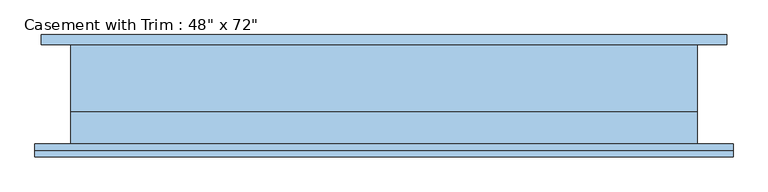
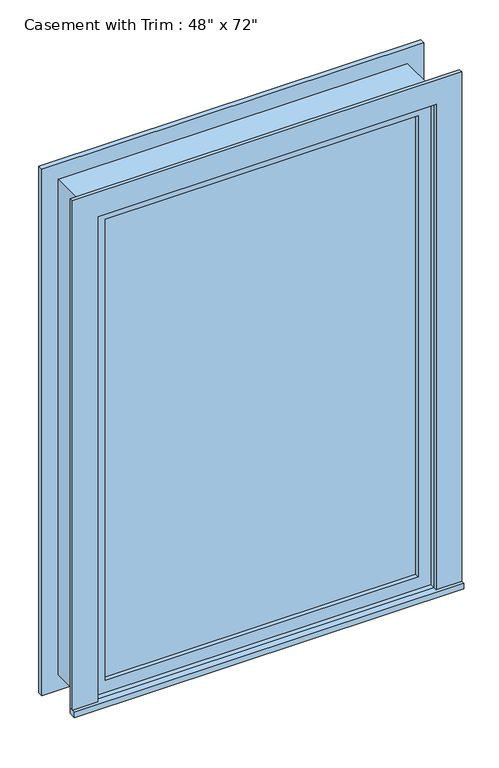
"""IFC4 building model written with IfcOpenShell, lengths in millimetres: window geometry."""

from ifc_helpers import new_model, si_unit, frame, origin, place, context, project, spatial, polyline, outline, extrude, source, transform, mapped, element, save


def window_97fb18ba(model_context):
    return source(origin(), model_context, "Body", "SweptSolid", [
        extrude(outline(polyline([(-679.45, -122.2375), (-679.45, -96.8375), (679.45, -96.8375), (679.45, -122.2375), (-679.45, -122.2375)])), frame((0.0, 0.0, 304.8), z_axis=(0.0, 0.0, 1.0), x_axis=(1.0, 0.0, 0.0)), (0.0, 0.0, 1.0), 19.05),
        extrude(outline(polyline([(2114.55, -590.55), (2114.55, 590.55), (323.85, 590.55), (323.85, 679.45), (2203.45, 679.45), (2203.45, -679.45), (323.85, -679.45), (323.85, -590.55), (2114.55, -590.55)])), frame((0.0, -109.5375, 0.0), z_axis=(0.0, 1.0, 0.0), x_axis=(0.0, 0.0, 1.0)), (0.0, 0.0, 1.0), 12.7),
        extrude(outline(polyline([(2190.75, 666.75), (2190.75, -666.75), (247.65, -666.75), (247.65, 666.75), (2190.75, 666.75)]), holes=[polyline([(2101.85, 577.85), (336.55, 577.85), (336.55, -577.85), (2101.85, -577.85), (2101.85, 577.85)])]), frame((0.0, 96.8375, 0.0), z_axis=(0.0, 1.0, 0.0), x_axis=(0.0, 0.0, 1.0)), (0.0, 0.0, 1.0), 19.05),
        extrude(outline(polyline([(546.1, -49.2125), (546.1, -61.9125), (-546.1, -61.9125), (-546.1, -49.2125), (546.1, -49.2125)])), frame((0.0, 0.0, 368.3), z_axis=(0.0, 0.0, 1.0), x_axis=(1.0, 0.0, 0.0)), (0.0, 0.0, 1.0), 1701.8),
        extrude(outline(polyline([(2114.55, -590.55), (323.85, -590.55), (323.85, 590.55), (2114.55, 590.55), (2114.55, -590.55)]), holes=[polyline([(2070.1, -546.1), (2070.1, 546.1), (368.3, 546.1), (368.3, -546.1), (2070.1, -546.1)])]), frame((0.0, -77.7875, 0.0), z_axis=(0.0, 1.0, 0.0), x_axis=(0.0, 0.0, 1.0)), (0.0, 0.0, 1.0), 44.45),
        extrude(outline(polyline([(2133.6, -609.6), (304.8, -609.6), (304.8, 609.6), (2133.6, 609.6), (2133.6, -609.6)]), holes=[polyline([(2101.85, -577.85), (2101.85, 577.85), (336.55, 577.85), (336.55, -577.85), (2101.85, -577.85)])]), frame((0.0, -33.3375, 0.0), z_axis=(0.0, 1.0, 0.0), x_axis=(0.0, 0.0, 1.0)), (0.0, 0.0, 1.0), 130.175),
        extrude(outline(polyline([(2133.6, 609.6), (2133.6, -609.6), (304.8, -609.6), (304.8, 609.6), (2133.6, 609.6)]), holes=[polyline([(2114.55, 590.55), (323.85, 590.55), (323.85, -590.55), (2114.55, -590.55), (2114.55, 590.55)])]), frame((0.0, -96.8375, 0.0), z_axis=(0.0, 1.0, 0.0), x_axis=(0.0, 0.0, 1.0)), (0.0, 0.0, 1.0), 63.5),
    ])


if __name__ == "__main__":
    model = new_model("IFC4")
    model_context = context("Model", 3, world=origin())
    ifc_project = project(units=[si_unit("LENGTHUNIT", "METRE", prefix="MILLI")], contexts=[model_context])
    site = spatial("IfcSite", under=ifc_project)
    building = spatial("IfcBuilding", under=site)
    placement = place(None, origin())
    window_shape = window_97fb18ba(model_context)
    element("IfcWindow", 1, ObjectType="Casement with Trim : 48\" x 72\"", at=placement, inside=building, context=model_context, shape_type="MappedRepresentation", body=[
        mapped(window_shape, transform((0.0, 0.0, 0.0), x_axis=(1.0, 0.0, 0.0), y_axis=(0.0, 1.0, 0.0), z_axis=(0.0, 0.0, 1.0))),
    ])
    save(model, "model.ifc")
